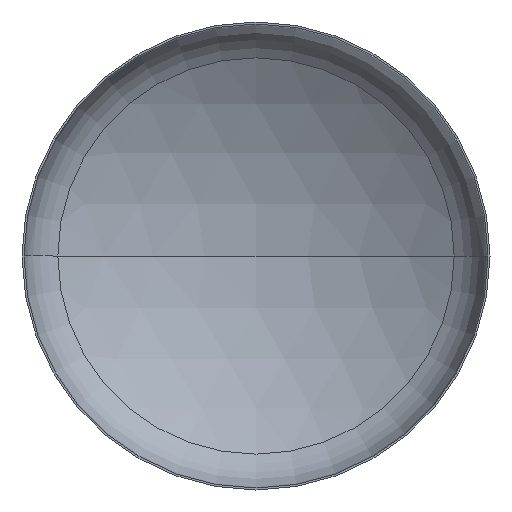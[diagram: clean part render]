
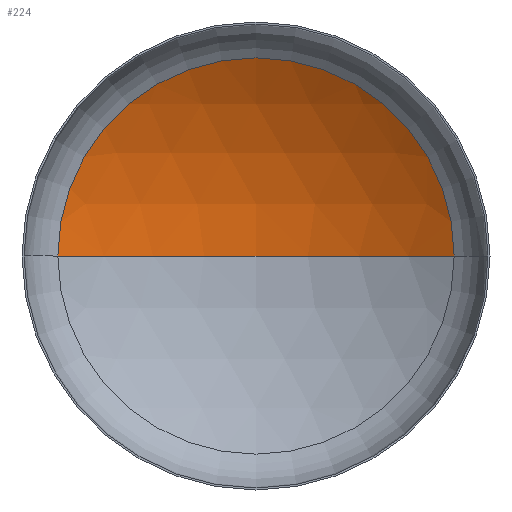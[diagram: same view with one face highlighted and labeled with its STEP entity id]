
A CAD part, front view. The second image highlights one B-rep face of the part: STEP entity #224.
In plain terms, the highlighted spherical face has radius 2240 mm.
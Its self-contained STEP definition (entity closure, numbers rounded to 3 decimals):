
#30 = AXIS2_PLACEMENT_3D ( 'NONE', #173, #385, #286 ) ;
#34 = VERTEX_POINT ( 'NONE', #282 ) ;
#44 = ORIENTED_EDGE ( 'NONE', *, *, #82, .T. ) ;
#45 = AXIS2_PLACEMENT_3D ( 'NONE', #288, #398, #246 ) ;
#47 = EDGE_LOOP ( 'NONE', ( #104, #56, #44 ) ) ;
#48 = AXIS2_PLACEMENT_3D ( 'NONE', #178, #336, #200 ) ;
#52 = AXIS2_PLACEMENT_3D ( 'NONE', #189, #187, #194 ) ;
#56 = ORIENTED_EDGE ( 'NONE', *, *, #105, .T. ) ;
#82 = EDGE_CURVE ( 'NONE', #151, #34, #356, .T. ) ;
#96 = VERTEX_POINT ( 'NONE', #219 ) ;
#104 = ORIENTED_EDGE ( 'NONE', *, *, #119, .F. ) ;
#105 = EDGE_CURVE ( 'NONE', #96, #151, #350, .T. ) ;
#119 = EDGE_CURVE ( 'NONE', #96, #34, #294, .T. ) ;
#144 = SPHERICAL_SURFACE ( 'NONE', #30, 2240. ) ;
#151 = VERTEX_POINT ( 'NONE', #315 ) ;
#173 = CARTESIAN_POINT ( 'NONE',  ( 0., -1495.687, 0. ) ) ;
#178 = CARTESIAN_POINT ( 'NONE',  ( 0., -1495.687, 0. ) ) ;
#187 = DIRECTION ( 'NONE',  ( 0., -1., 0. ) ) ;
#189 = CARTESIAN_POINT ( 'NONE',  ( 0., 404.832, 0. ) ) ;
#194 = DIRECTION ( 'NONE',  ( 1., 0., 0. ) ) ;
#200 = DIRECTION ( 'NONE',  ( 1., 0., 0. ) ) ;
#219 = CARTESIAN_POINT ( 'NONE',  ( 0., 744.313, 0. ) ) ;
#224 = ADVANCED_FACE ( 'NONE', ( #271 ), #144, .F. ) ;
#246 = DIRECTION ( 'NONE',  ( -1., 0., 0. ) ) ;
#271 = FACE_OUTER_BOUND ( 'NONE', #47, .T. ) ;
#282 = CARTESIAN_POINT ( 'NONE',  ( -1185.591, 404.832, 0. ) ) ;
#286 = DIRECTION ( 'NONE',  ( -1., 0., 0. ) ) ;
#288 = CARTESIAN_POINT ( 'NONE',  ( 0., -1495.687, 0. ) ) ;
#294 = CIRCLE ( 'NONE', #48, 2240. ) ;
#315 = CARTESIAN_POINT ( 'NONE',  ( 1185.591, 404.832, 0. ) ) ;
#336 = DIRECTION ( 'NONE',  ( 0., 0., 1. ) ) ;
#350 = CIRCLE ( 'NONE', #45, 2240. ) ;
#356 = CIRCLE ( 'NONE', #52, 1185.591 ) ;
#385 = DIRECTION ( 'NONE',  ( 0., 0., -1. ) ) ;
#398 = DIRECTION ( 'NONE',  ( 0., 0., -1. ) ) ;
